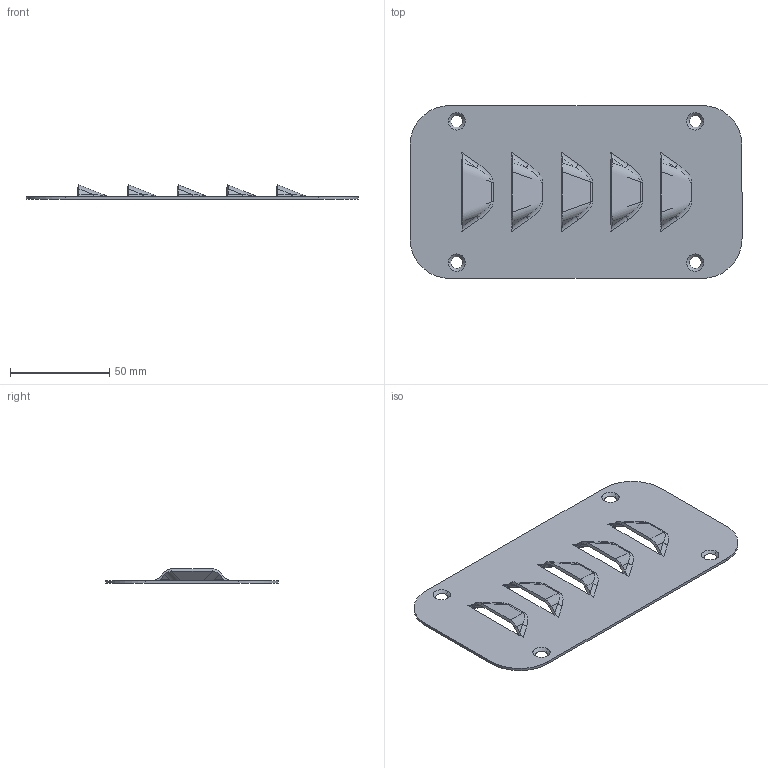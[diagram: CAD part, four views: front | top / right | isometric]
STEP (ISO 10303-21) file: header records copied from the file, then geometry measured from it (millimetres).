
FILE_DESCRIPTION (( 'STEP AP203' ), '1' );
FILE_NAME ('ECIA0001.STEP', '2020-04-07T14:15:34', ( '' ), ( '' ), 'SwSTEP 2.0', 'SolidWorks 2019', '' );
FILE_SCHEMA (( 'CONFIG_CONTROL_DESIGN' ));
Length unit declared in the file: millimetre
Products named in the file (1): ECIA0001
Bounding box: 167 x 87 x 7.25 mm (x, y, z)
Volume: 19281.2 mm3; surface area: 29870.4 mm2
Topology: 1 solids, 1 shells, 168 faces, 388 edges, 222 vertices
Faces by surface type: plane 56, cylinder 54, bspline 50, cone 8
Entity records: 6204 total; most frequent: CARTESIAN_POINT 2854, ORIENTED_EDGE 776, DIRECTION 560, EDGE_CURVE 388, VERTEX_POINT 222, LINE 194, VECTOR 194, EDGE_LOOP 186
